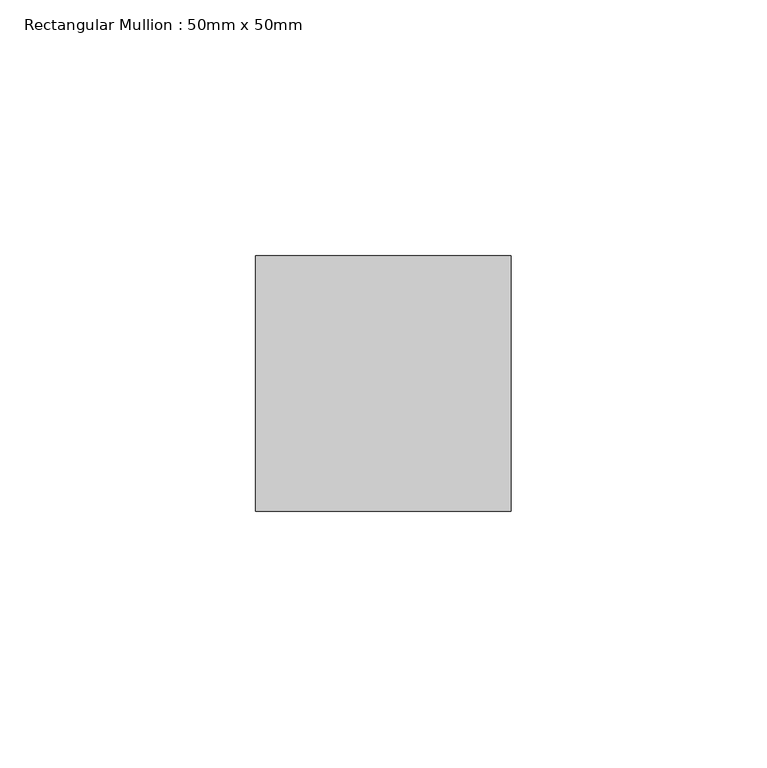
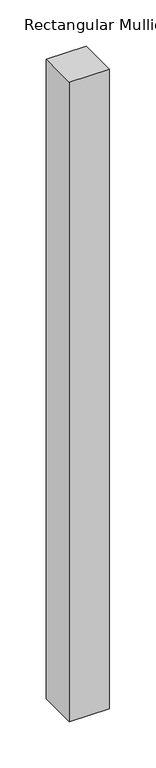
"""IFC4 building model written with IfcOpenShell, lengths in millimetres: member geometry, Rectangular Mullion : 50mm x 50mm."""

from ifc_helpers import new_model, si_unit, frame, origin, place, context, project, spatial, polyline, outline, extrude, source, transform, mapped, element, save


def rectangular_mullion_50mm_x_50mm_48909209(model_context):
    return source(origin(), model_context, "Body", "SweptSolid", [
        extrude(outline(polyline([(25.0, 25.0), (25.0, -25.0), (-25.0, -25.0), (-25.0, 25.0), (25.0, 25.0)])), frame((0.0, 0.0, -843.9953169), z_axis=(0.0, 0.0, 1.0), x_axis=(1.0, 0.0, 0.0)), (0.0, 0.0, 1.0), 843.9953169),
    ])


if __name__ == "__main__":
    model = new_model("IFC4")
    model_context = context("Model", 3, world=origin())
    ifc_project = project(units=[si_unit("LENGTHUNIT", "METRE", prefix="MILLI")], contexts=[model_context])
    site = spatial("IfcSite", under=ifc_project)
    building = spatial("IfcBuilding", under=site)
    placement = place(None, origin())
    rectangular_mullion_50mm_x_50mm_shape = rectangular_mullion_50mm_x_50mm_48909209(model_context)
    element("IfcMember", 1, ObjectType="Rectangular Mullion : 50mm x 50mm", at=placement, inside=building, context=model_context, shape_type="MappedRepresentation", body=[
        mapped(rectangular_mullion_50mm_x_50mm_shape, transform((0.0, 0.0, 0.0), x_axis=(1.0, 0.0, 0.0), y_axis=(0.0, 1.0, 0.0), z_axis=(0.0, 0.0, 1.0))),
    ])
    save(model, "model.ifc")
